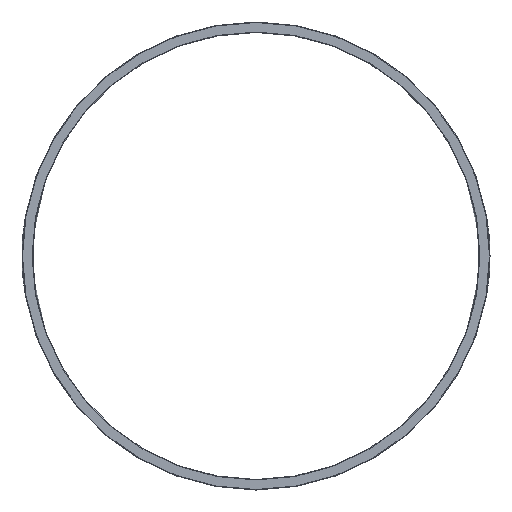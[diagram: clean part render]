
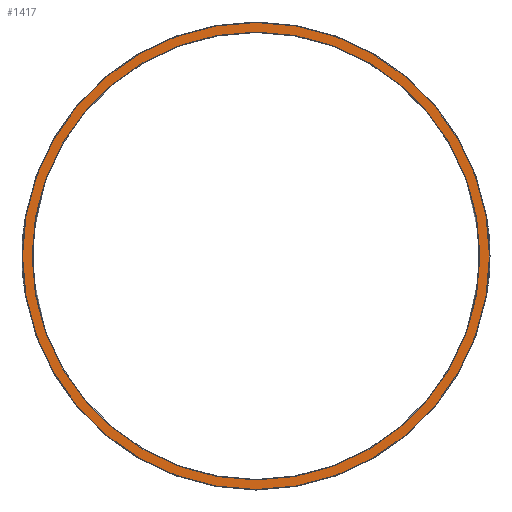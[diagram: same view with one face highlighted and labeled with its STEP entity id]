
A CAD part, left-side view. The second image highlights one B-rep face of the part: STEP entity #1417.
In plain terms, the highlighted planar face has unit normal (-1, 0, 0).
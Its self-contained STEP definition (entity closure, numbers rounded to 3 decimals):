
#1386=CARTESIAN_POINT('',(-40.25,44.6,0.));
#1387=VERTEX_POINT('',#1386);
#1388=CARTESIAN_POINT('',(-40.25,0.0,0.0));
#1389=DIRECTION('',(-1.0,0.0,0.0));
#1390=DIRECTION('',(0.0,-1.0,0.0));
#1391=AXIS2_PLACEMENT_3D('',#1388,#1389,#1390);
#1392=CIRCLE('',#1391,44.6);
#1393=EDGE_CURVE('',#1387,#1387,#1392,.T.);
#1398=CARTESIAN_POINT('',(-40.25,45.55,0.0));
#1399=DIRECTION('',(-1.0,0.0,0.0));
#1400=DIRECTION('',(0.0,0.0,1.0));
#1401=AXIS2_PLACEMENT_3D('',#1398,#1399,#1400);
#1402=PLANE('',#1401);
#1403=CARTESIAN_POINT('',(-40.25,46.5,0.));
#1404=VERTEX_POINT('',#1403);
#1405=CARTESIAN_POINT('',(-40.25,0.0,0.0));
#1406=DIRECTION('',(1.0,0.0,0.0));
#1407=DIRECTION('',(0.0,-1.0,0.0));
#1408=AXIS2_PLACEMENT_3D('',#1405,#1406,#1407);
#1409=CIRCLE('',#1408,46.5);
#1410=EDGE_CURVE('',#1404,#1404,#1409,.T.);
#1411=ORIENTED_EDGE('',*,*,#1410,.F.);
#1412=EDGE_LOOP('',(#1411));
#1413=FACE_OUTER_BOUND('',#1412,.T.);
#1414=ORIENTED_EDGE('',*,*,#1393,.F.);
#1415=EDGE_LOOP('',(#1414));
#1416=FACE_BOUND('',#1415,.T.);
#1417=ADVANCED_FACE('',(#1413,#1416),#1402,.T.);
